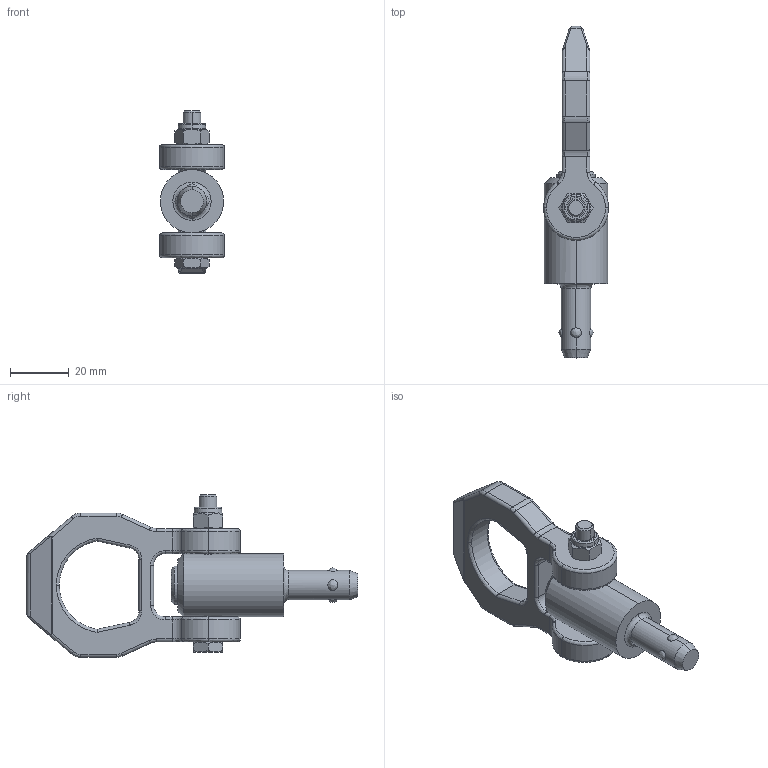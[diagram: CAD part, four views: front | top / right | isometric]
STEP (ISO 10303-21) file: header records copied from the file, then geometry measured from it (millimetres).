
FILE_DESCRIPTION (( 'STEP AP214' ), '1' );
FILE_NAME ('1130-10-15-NI.step', '2023-05-11T09:32:17', ( '' ), ( '' ), 'SwSTEP 2.0', 'SolidWorks 2022', '' );
FILE_SCHEMA (( 'AUTOMOTIVE_DESIGN' ));
Length unit declared in the file: millimetre
Products named in the file (3): Kopie von bolzen1^WB1130_NI_10-15-NI; 1130-10-15-NI; Kopie von ring2^WB1130_NI
Assembly tree (2 placements, depth 2):
  1130-10-15-NI
    Kopie von bolzen1^WB1130_NI_10-15-NI
    Kopie von ring2^WB1130_NI
Bounding box: 22 x 112.7 x 55.25 mm (x, y, z)
Volume: 34063.5 mm3; surface area: 12196.2 mm2
Topology: 2 solids, 2 shells, 244 faces, 607 edges, 375 vertices
Faces by surface type: plane 83, cylinder 77, bspline 54, cone 26, torus 4
Entity records: 9712 total; most frequent: CARTESIAN_POINT 4412, ORIENTED_EDGE 1214, DIRECTION 887, EDGE_CURVE 607, VERTEX_POINT 375, AXIS2_PLACEMENT_3D 329, EDGE_LOOP 258, FACE_OUTER_BOUND 244
